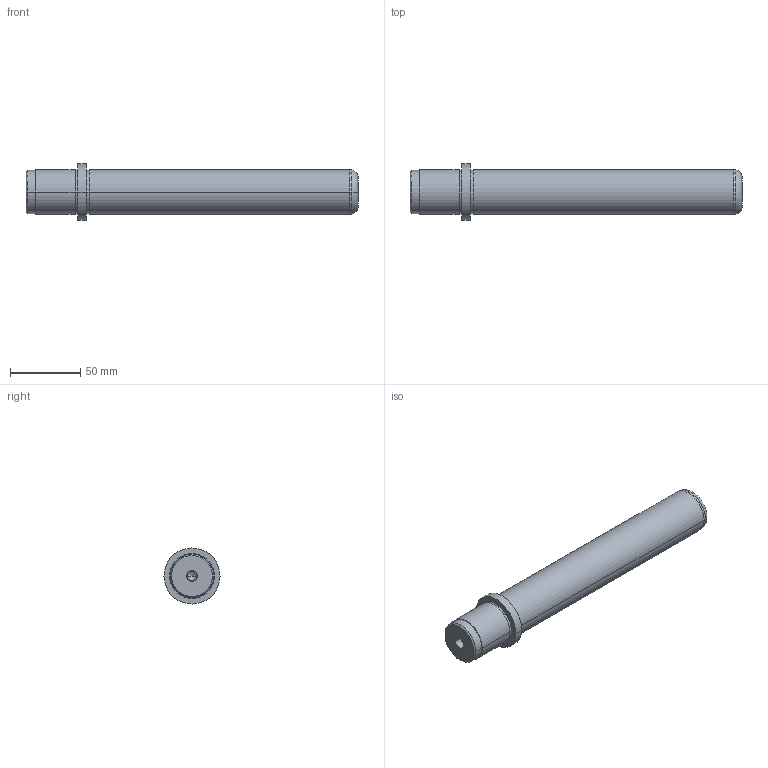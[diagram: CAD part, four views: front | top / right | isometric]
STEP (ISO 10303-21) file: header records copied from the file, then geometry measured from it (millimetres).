
FILE_DESCRIPTION( ( 'STEP AP203' ), '1' );
FILE_NAME( 'D:/Delta 3 D/D00/D00 - 32x200x37.step', '2003-01-02T07:04:30', ( ' ' ), ( ' ' ), 'XStep 1.0', ' ', ' ' );
FILE_SCHEMA( ( 'CONFIG_CONTROL_DESIGN' ) );
Length unit declared in the file: metre
Products named in the file (1): 1
Bounding box: 237 x 40 x 40 mm (x, y, z)
Volume: 189999.7 mm3; surface area: 27524.3 mm2
Topology: 1 solids, 1 shells, 39 faces, 78 edges, 48 vertices
Faces by surface type: revolution 28, bspline 11
Entity records: 1137 total; most frequent: CARTESIAN_POINT 277, DIRECTION 154, ORIENTED_EDGE 152, EDGE_CURVE 76, AXIS2_PLACEMENT_3D 49, EDGE_LOOP 48, VERTEX_POINT 48, CIRCLE 48
